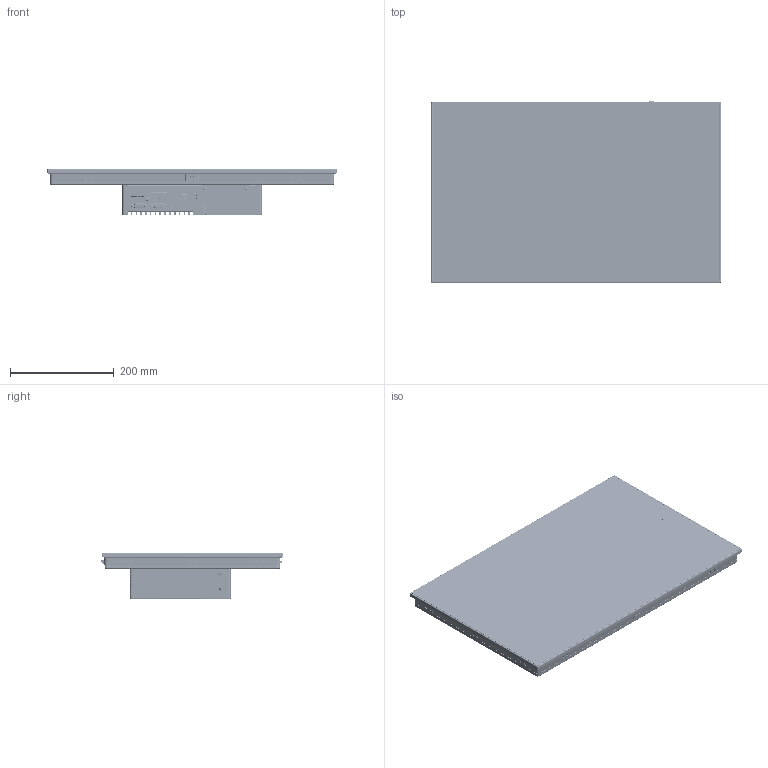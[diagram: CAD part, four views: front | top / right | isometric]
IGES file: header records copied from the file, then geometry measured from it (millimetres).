
Start section: SolidWorks IGES file using analytic representation for surfaces
Global section: file name: D:\MCIS\01_PG\IAG\HMI\TPC\TPC-Modular System assembly\TPC-5000\TPC-5212W-633AE\CAD file\Solidworks\0-TPC-5212W.IGS; native system: SolidWorks 2016; preprocessor: SolidWorks 2016; author: Tommy.Wong; date: 180424.162625; units: millimetre
Bounding box: 558.4 x 350.94 x 88.9 mm (x, y, z)
Surface area: 668173.4 mm2 (no closed solid volume)
Topology: 0 solids, 0 shells, 8305 faces, 90174 edges, 90097 vertices
Faces by surface type: bspline 6114, revolution 2191
